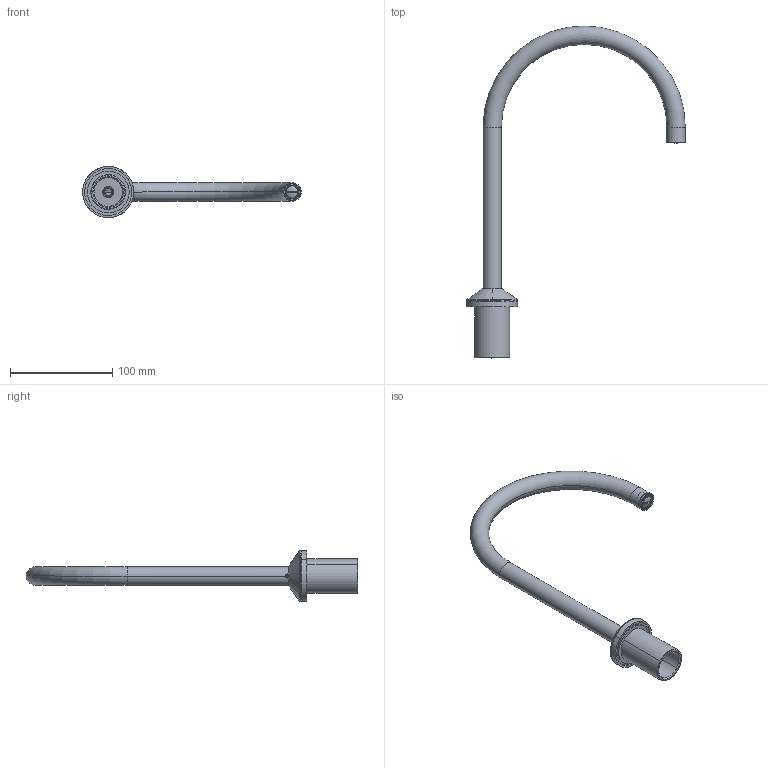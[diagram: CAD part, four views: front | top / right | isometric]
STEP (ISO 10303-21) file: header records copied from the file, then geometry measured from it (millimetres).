
FILE_DESCRIPTION (( 'STEP AP203' ), '1' );
FILE_NAME ('CTP2.STEP', '2019-04-15T12:13:14', ( '' ), ( '' ), 'SwSTEP 2.0', 'SolidWorks 2014', '' );
FILE_SCHEMA (( 'CONFIG_CONTROL_DESIGN' ));
Length unit declared in the file: millimetre
Products named in the file (11): EU1698_0; GRANCO M4x3 ACCIAIO; EU0029_1; OR992262ACS; EU1942_0; EU0649_0; AERA165X1CS; EU0648_1; EU1472_0; CTP2; OR212ACS
Assembly tree (12 placements, depth 2):
  CTP2
    EU0029_1
    OR212ACS
    EU1698_0
    EU1472_0
    EU0648_1
    EU0649_0  x2
    OR992262ACS  x2
    GRANCO M4x3 ACCIAIO
    AERA165X1CS
    EU1942_0
Bounding box: 214 x 324.97 x 50 mm (x, y, z)
Volume: 91172.8 mm3; surface area: 77649.9 mm2
Topology: 12 solids, 12 shells, 379 faces, 845 edges, 516 vertices
Faces by surface type: cylinder 124, plane 117, cone 92, torus 46
Entity records: 11062 total; most frequent: CARTESIAN_POINT 1893, DIRECTION 1863, ORIENTED_EDGE 1530, EDGE_CURVE 765, AXIS2_PLACEMENT_3D 762, VERTEX_POINT 468, CIRCLE 404, EDGE_LOOP 383
